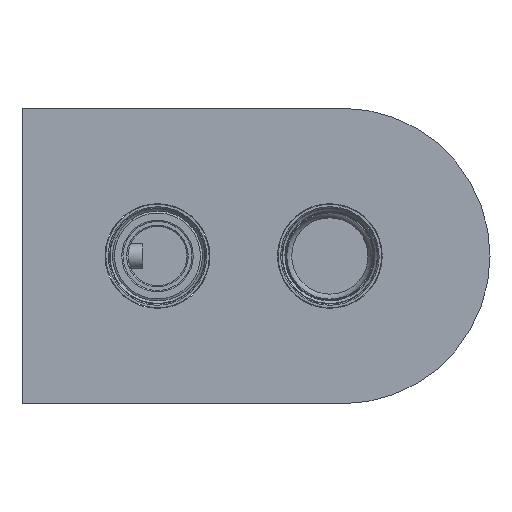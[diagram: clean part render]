
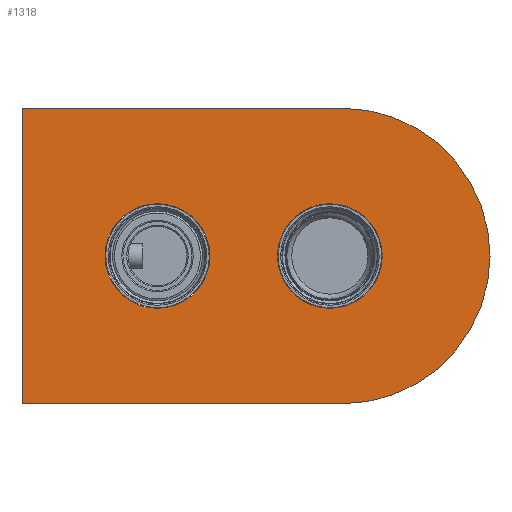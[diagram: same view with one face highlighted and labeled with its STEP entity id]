
A CAD part, left-side view. The second image highlights one B-rep face of the part: STEP entity #1318.
In plain terms, the highlighted planar face has unit normal (-1, 0, 0).
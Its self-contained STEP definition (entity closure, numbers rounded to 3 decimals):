
#40 = VERTEX_POINT ( 'NONE', #4144 ) ;
#108 = LINE ( 'NONE', #4833, #2833 ) ;
#289 = LINE ( 'NONE', #334, #1996 ) ;
#294 = CIRCLE ( 'NONE', #5676, 21.25 ) ;
#314 = CARTESIAN_POINT ( 'NONE',  ( 188.898, 34.815, 115.659 ) ) ;
#334 = CARTESIAN_POINT ( 'NONE',  ( 188.898, 89.815, 154.409 ) ) ;
#448 = LINE ( 'NONE', #6549, #4680 ) ;
#803 = CARTESIAN_POINT ( 'NONE',  ( 188.898, -35.185, 115.659 ) ) ;
#911 = EDGE_CURVE ( 'NONE', #1757, #1757, #294, .T. ) ;
#1054 = CARTESIAN_POINT ( 'NONE',  ( 188.898, -40.185, 94.409 ) ) ;
#1204 = EDGE_CURVE ( 'NONE', #6385, #6415, #289, .T. ) ;
#1318 = ADVANCED_FACE ( 'NONE', ( #1790, #5261, #5171 ), #3593, .T. ) ;
#1452 = EDGE_CURVE ( 'NONE', #40, #6385, #108, .T. ) ;
#1757 = VERTEX_POINT ( 'NONE', #803 ) ;
#1790 = FACE_BOUND ( 'NONE', #3766, .T. ) ;
#1996 = VECTOR ( 'NONE', #6423, 1000. ) ;
#2070 = AXIS2_PLACEMENT_3D ( 'NONE', #1054, #2390, #5268 ) ;
#2180 = ORIENTED_EDGE ( 'NONE', *, *, #1452, .T. ) ;
#2196 = ORIENTED_EDGE ( 'NONE', *, *, #1204, .T. ) ;
#2213 = ORIENTED_EDGE ( 'NONE', *, *, #4011, .F. ) ;
#2365 = DIRECTION ( 'NONE',  ( 0., 0., 1. ) ) ;
#2390 = DIRECTION ( 'NONE',  ( -1., 0., 0. ) ) ;
#2788 = VERTEX_POINT ( 'NONE', #314 ) ;
#2833 = VECTOR ( 'NONE', #5183, 1000. ) ;
#3067 = DIRECTION ( 'NONE',  ( 0., 0., 1. ) ) ;
#3093 = DIRECTION ( 'NONE',  ( -1., 0., 0. ) ) ;
#3593 = PLANE ( 'NONE',  #2070 ) ;
#3627 = CARTESIAN_POINT ( 'NONE',  ( 188.898, -40.185, 94.409 ) ) ;
#3766 = EDGE_LOOP ( 'NONE', ( #5019 ) ) ;
#3773 = AXIS2_PLACEMENT_3D ( 'NONE', #3627, #7750, #2365 ) ;
#4011 = EDGE_CURVE ( 'NONE', #2788, #2788, #7587, .T. ) ;
#4114 = EDGE_CURVE ( 'NONE', #6415, #5826, #448, .T. ) ;
#4144 = CARTESIAN_POINT ( 'NONE',  ( 188.898, -40.185, 154.409 ) ) ;
#4413 = CARTESIAN_POINT ( 'NONE',  ( 188.898, 89.815, 154.409 ) ) ;
#4680 = VECTOR ( 'NONE', #7620, 1000. ) ;
#4833 = CARTESIAN_POINT ( 'NONE',  ( 188.898, -40.185, 154.409 ) ) ;
#5019 = ORIENTED_EDGE ( 'NONE', *, *, #911, .F. ) ;
#5134 = AXIS2_PLACEMENT_3D ( 'NONE', #5269, #7716, #7089 ) ;
#5171 = FACE_OUTER_BOUND ( 'NONE', #5874, .T. ) ;
#5183 = DIRECTION ( 'NONE',  ( 0., 1., 0. ) ) ;
#5247 = EDGE_CURVE ( 'NONE', #5826, #40, #6195, .T. ) ;
#5261 = FACE_BOUND ( 'NONE', #6811, .T. ) ;
#5268 = DIRECTION ( 'NONE',  ( 0., 0., 1. ) ) ;
#5269 = CARTESIAN_POINT ( 'NONE',  ( 188.898, 34.815, 94.409 ) ) ;
#5559 = CARTESIAN_POINT ( 'NONE',  ( 188.898, -40.185, 34.409 ) ) ;
#5676 = AXIS2_PLACEMENT_3D ( 'NONE', #7730, #3093, #3067 ) ;
#5826 = VERTEX_POINT ( 'NONE', #5559 ) ;
#5874 = EDGE_LOOP ( 'NONE', ( #2180, #2196, #6407, #6350 ) ) ;
#6195 = CIRCLE ( 'NONE', #3773, 60. ) ;
#6350 = ORIENTED_EDGE ( 'NONE', *, *, #5247, .T. ) ;
#6385 = VERTEX_POINT ( 'NONE', #4413 ) ;
#6407 = ORIENTED_EDGE ( 'NONE', *, *, #4114, .T. ) ;
#6415 = VERTEX_POINT ( 'NONE', #7753 ) ;
#6423 = DIRECTION ( 'NONE',  ( 0., 0., -1. ) ) ;
#6549 = CARTESIAN_POINT ( 'NONE',  ( 188.898, 89.815, 34.409 ) ) ;
#6811 = EDGE_LOOP ( 'NONE', ( #2213 ) ) ;
#7089 = DIRECTION ( 'NONE',  ( 0., 0., 1. ) ) ;
#7587 = CIRCLE ( 'NONE', #5134, 21.25 ) ;
#7620 = DIRECTION ( 'NONE',  ( 0., -1., 0. ) ) ;
#7716 = DIRECTION ( 'NONE',  ( -1., 0., 0. ) ) ;
#7730 = CARTESIAN_POINT ( 'NONE',  ( 188.898, -35.185, 94.409 ) ) ;
#7750 = DIRECTION ( 'NONE',  ( -1., 0., 0. ) ) ;
#7753 = CARTESIAN_POINT ( 'NONE',  ( 188.898, 89.815, 34.409 ) ) ;
